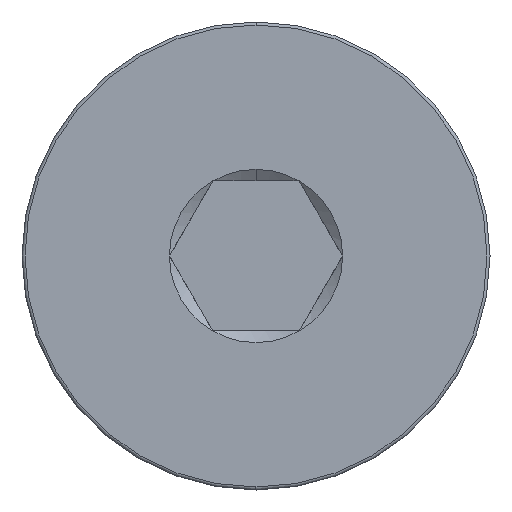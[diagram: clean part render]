
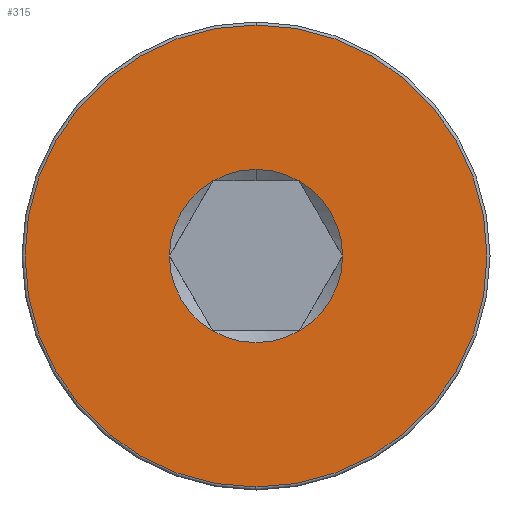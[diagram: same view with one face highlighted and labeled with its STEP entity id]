
A CAD part, left-side view. The second image highlights one B-rep face of the part: STEP entity #315.
In plain terms, the highlighted planar face has unit normal (-1, 0, 0).
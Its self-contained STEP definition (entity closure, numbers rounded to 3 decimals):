
#3 = EDGE_CURVE ( 'NONE', #244, #107, #365, .T. ) ;
#7 = ORIENTED_EDGE ( 'NONE', *, *, #3, .T. ) ;
#12 = DIRECTION ( 'NONE',  ( 0., 0., -1. ) ) ;
#54 = EDGE_CURVE ( 'NONE', #533, #775, #430, .T. ) ;
#56 = DIRECTION ( 'NONE',  ( 0., 0., 1. ) ) ;
#68 = CARTESIAN_POINT ( 'NONE',  ( 0., 0., 0. ) ) ;
#72 = CARTESIAN_POINT ( 'NONE',  ( 0., 0.722, 1.25 ) ) ;
#100 = CARTESIAN_POINT ( 'NONE',  ( 0., -1.443, 0. ) ) ;
#107 = VERTEX_POINT ( 'NONE', #512 ) ;
#109 = EDGE_CURVE ( 'NONE', #432, #721, #580, .T. ) ;
#117 = AXIS2_PLACEMENT_3D ( 'NONE', #563, #326, #448 ) ;
#149 = DIRECTION ( 'NONE',  ( 1., 0., 0. ) ) ;
#152 = CIRCLE ( 'NONE', #727, 1.443 ) ;
#164 = CARTESIAN_POINT ( 'NONE',  ( 0., 0., 0. ) ) ;
#170 = AXIS2_PLACEMENT_3D ( 'NONE', #707, #149, #412 ) ;
#176 = DIRECTION ( 'NONE',  ( 0., 0., -1. ) ) ;
#181 = CIRCLE ( 'NONE', #553, 3.85 ) ;
#185 = ORIENTED_EDGE ( 'NONE', *, *, #109, .T. ) ;
#191 = EDGE_LOOP ( 'NONE', ( #354, #7 ) ) ;
#202 = EDGE_CURVE ( 'NONE', #499, #533, #761, .T. ) ;
#204 = CARTESIAN_POINT ( 'NONE',  ( 0., 0., 0. ) ) ;
#230 = ORIENTED_EDGE ( 'NONE', *, *, #202, .T. ) ;
#232 = DIRECTION ( 'NONE',  ( 0., 0., 1. ) ) ;
#237 = DIRECTION ( 'NONE',  ( 0., 0., -1. ) ) ;
#238 = ORIENTED_EDGE ( 'NONE', *, *, #248, .T. ) ;
#239 = CIRCLE ( 'NONE', #453, 1.443 ) ;
#241 = CARTESIAN_POINT ( 'NONE',  ( 0., 0., 0. ) ) ;
#242 = VERTEX_POINT ( 'NONE', #281 ) ;
#244 = VERTEX_POINT ( 'NONE', #666 ) ;
#246 = ORIENTED_EDGE ( 'NONE', *, *, #435, .T. ) ;
#248 = EDGE_CURVE ( 'NONE', #242, #432, #152, .T. ) ;
#272 = AXIS2_PLACEMENT_3D ( 'NONE', #493, #370, #176 ) ;
#281 = CARTESIAN_POINT ( 'NONE',  ( 0., -0.722, -1.25 ) ) ;
#288 = EDGE_CURVE ( 'NONE', #672, #242, #753, .T. ) ;
#294 = DIRECTION ( 'NONE',  ( 1., 0., 0. ) ) ;
#295 = ORIENTED_EDGE ( 'NONE', *, *, #288, .T. ) ;
#302 = CIRCLE ( 'NONE', #170, 1.443 ) ;
#315 = ADVANCED_FACE ( 'NONE', ( #619, #613 ), #426, .T. ) ;
#326 = DIRECTION ( 'NONE',  ( 1., 0., 0. ) ) ;
#328 = DIRECTION ( 'NONE',  ( 0., 0., -1. ) ) ;
#344 = CARTESIAN_POINT ( 'NONE',  ( 0., 0., 0. ) ) ;
#346 = CARTESIAN_POINT ( 'NONE',  ( 0., -0.722, 1.25 ) ) ;
#354 = ORIENTED_EDGE ( 'NONE', *, *, #598, .T. ) ;
#365 = CIRCLE ( 'NONE', #388, 3.85 ) ;
#370 = DIRECTION ( 'NONE',  ( 1., 0., 0. ) ) ;
#387 = DIRECTION ( 'NONE',  ( -1., 0., 0. ) ) ;
#388 = AXIS2_PLACEMENT_3D ( 'NONE', #645, #387, #522 ) ;
#403 = AXIS2_PLACEMENT_3D ( 'NONE', #344, #294, #237 ) ;
#412 = DIRECTION ( 'NONE',  ( 0., 0., -1. ) ) ;
#426 = PLANE ( 'NONE',  #620 ) ;
#430 = CIRCLE ( 'NONE', #117, 1.443 ) ;
#432 = VERTEX_POINT ( 'NONE', #514 ) ;
#435 = EDGE_CURVE ( 'NONE', #775, #672, #239, .T. ) ;
#448 = DIRECTION ( 'NONE',  ( 0., 0., -1. ) ) ;
#452 = DIRECTION ( 'NONE',  ( 1., 0., 0. ) ) ;
#453 = AXIS2_PLACEMENT_3D ( 'NONE', #68, #504, #12 ) ;
#493 = CARTESIAN_POINT ( 'NONE',  ( 0., 0., 0. ) ) ;
#498 = DIRECTION ( 'NONE',  ( -1., 0., 0. ) ) ;
#499 = VERTEX_POINT ( 'NONE', #72 ) ;
#504 = DIRECTION ( 'NONE',  ( 1., 0., 0. ) ) ;
#512 = CARTESIAN_POINT ( 'NONE',  ( 0., 0., 3.85 ) ) ;
#514 = CARTESIAN_POINT ( 'NONE',  ( 0., 0.722, -1.25 ) ) ;
#516 = EDGE_LOOP ( 'NONE', ( #654, #230, #729, #246, #295, #238, #185 ) ) ;
#522 = DIRECTION ( 'NONE',  ( 0., 0., 1. ) ) ;
#533 = VERTEX_POINT ( 'NONE', #629 ) ;
#535 = DIRECTION ( 'NONE',  ( 1., 0., 0. ) ) ;
#553 = AXIS2_PLACEMENT_3D ( 'NONE', #164, #714, #232 ) ;
#563 = CARTESIAN_POINT ( 'NONE',  ( 0., 0., 0. ) ) ;
#580 = CIRCLE ( 'NONE', #726, 1.443 ) ;
#586 = DIRECTION ( 'NONE',  ( 0., 0., -1. ) ) ;
#598 = EDGE_CURVE ( 'NONE', #107, #244, #181, .T. ) ;
#607 = CARTESIAN_POINT ( 'NONE',  ( 0., 1.443, 0. ) ) ;
#613 = FACE_BOUND ( 'NONE', #516, .T. ) ;
#619 = FACE_OUTER_BOUND ( 'NONE', #191, .T. ) ;
#620 = AXIS2_PLACEMENT_3D ( 'NONE', #241, #498, #56 ) ;
#629 = CARTESIAN_POINT ( 'NONE',  ( 0., 0., 1.443 ) ) ;
#645 = CARTESIAN_POINT ( 'NONE',  ( 0., 0., 0. ) ) ;
#654 = ORIENTED_EDGE ( 'NONE', *, *, #663, .T. ) ;
#663 = EDGE_CURVE ( 'NONE', #721, #499, #302, .T. ) ;
#666 = CARTESIAN_POINT ( 'NONE',  ( 0., 0., -3.85 ) ) ;
#672 = VERTEX_POINT ( 'NONE', #100 ) ;
#707 = CARTESIAN_POINT ( 'NONE',  ( 0., 0., 0. ) ) ;
#708 = CARTESIAN_POINT ( 'NONE',  ( 0., 0., 0. ) ) ;
#714 = DIRECTION ( 'NONE',  ( -1., 0., 0. ) ) ;
#721 = VERTEX_POINT ( 'NONE', #607 ) ;
#726 = AXIS2_PLACEMENT_3D ( 'NONE', #204, #452, #328 ) ;
#727 = AXIS2_PLACEMENT_3D ( 'NONE', #708, #535, #586 ) ;
#729 = ORIENTED_EDGE ( 'NONE', *, *, #54, .T. ) ;
#753 = CIRCLE ( 'NONE', #272, 1.443 ) ;
#761 = CIRCLE ( 'NONE', #403, 1.443 ) ;
#775 = VERTEX_POINT ( 'NONE', #346 ) ;
